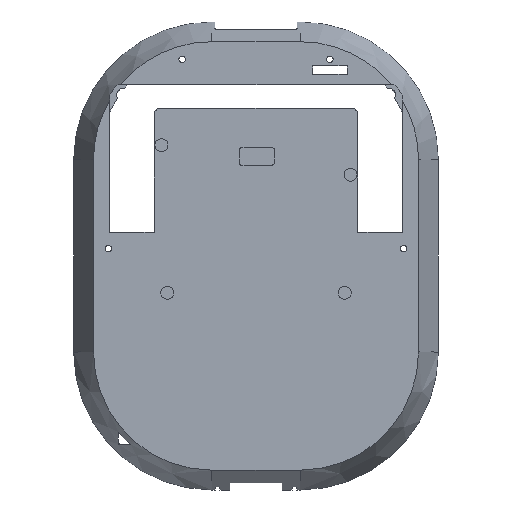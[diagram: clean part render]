
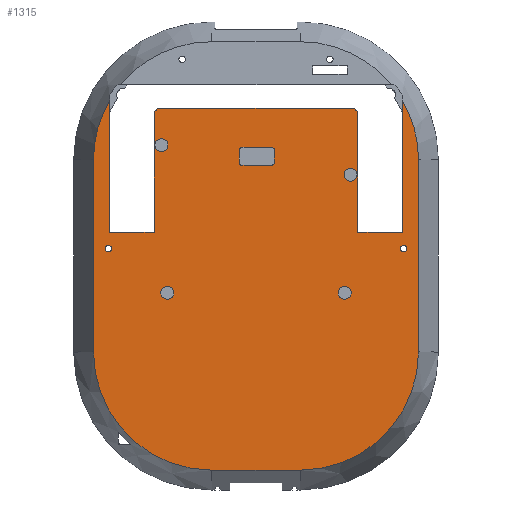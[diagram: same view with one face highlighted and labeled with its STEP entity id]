
A CAD part, top view. The second image highlights one B-rep face of the part: STEP entity #1315.
In plain terms, the highlighted planar face has unit normal (0, 0, 1).
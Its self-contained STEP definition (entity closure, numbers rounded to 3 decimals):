
#138 = VERTEX_POINT('',#139);
#139 = CARTESIAN_POINT('',(-55.,110.,57.5));
#144 = EDGE_CURVE('',#145,#138,#147,.T.);
#145 = VERTEX_POINT('',#146);
#146 = CARTESIAN_POINT('',(-49.5,130.242,57.5));
#147 = CIRCLE('',#148,40.);
#148 = AXIS2_PLACEMENT_3D('',#149,#150,#151);
#149 = CARTESIAN_POINT('',(-15.,110.,57.5));
#150 = DIRECTION('',(0.,-0.,1.));
#151 = DIRECTION('',(0.,1.,0.));
#902 = VERTEX_POINT('',#903);
#903 = CARTESIAN_POINT('',(-15.,5.,57.5));
#999 = VERTEX_POINT('',#1000);
#1000 = CARTESIAN_POINT('',(15.,5.,57.5));
#1005 = EDGE_CURVE('',#902,#999,#1006,.T.);
#1006 = LINE('',#1007,#1008);
#1007 = CARTESIAN_POINT('',(-15.,5.,57.5));
#1008 = VECTOR('',#1009,1.);
#1009 = DIRECTION('',(1.,0.,0.));
#1021 = EDGE_CURVE('',#1022,#902,#1024,.T.);
#1022 = VERTEX_POINT('',#1023);
#1023 = CARTESIAN_POINT('',(-55.,45.,57.5));
#1024 = CIRCLE('',#1025,40.);
#1025 = AXIS2_PLACEMENT_3D('',#1026,#1027,#1028);
#1026 = CARTESIAN_POINT('',(-15.,45.,57.5));
#1027 = DIRECTION('',(0.,0.,1.));
#1028 = DIRECTION('',(-1.,0.,0.));
#1116 = EDGE_CURVE('',#138,#1022,#1117,.T.);
#1117 = LINE('',#1118,#1119);
#1118 = CARTESIAN_POINT('',(-55.,110.,57.5));
#1119 = VECTOR('',#1120,1.);
#1120 = DIRECTION('',(0.,-1.,0.));
#1298 = VERTEX_POINT('',#1299);
#1299 = CARTESIAN_POINT('',(-49.5,85.5,57.5));
#1305 = EDGE_CURVE('',#145,#1298,#1306,.T.);
#1306 = LINE('',#1307,#1308);
#1307 = CARTESIAN_POINT('',(-49.5,106.5,57.5));
#1308 = VECTOR('',#1309,1.);
#1309 = DIRECTION('',(0.,-1.,0.));
#1315 = ADVANCED_FACE('',(#1316,#1413,#1424,#1435,#1446,#1457,#1468,
    #1538),#1549,.T.);
#1316 = FACE_BOUND('',#1317,.T.);
#1317 = EDGE_LOOP('',(#1318,#1319,#1320,#1321,#1322,#1331,#1339,#1348,
    #1356,#1364,#1372,#1381,#1389,#1398,#1406,#1412));
#1318 = ORIENTED_EDGE('',*,*,#144,.T.);
#1319 = ORIENTED_EDGE('',*,*,#1116,.T.);
#1320 = ORIENTED_EDGE('',*,*,#1021,.T.);
#1321 = ORIENTED_EDGE('',*,*,#1005,.T.);
#1322 = ORIENTED_EDGE('',*,*,#1323,.T.);
#1323 = EDGE_CURVE('',#999,#1324,#1326,.T.);
#1324 = VERTEX_POINT('',#1325);
#1325 = CARTESIAN_POINT('',(55.,45.,57.5));
#1326 = CIRCLE('',#1327,40.);
#1327 = AXIS2_PLACEMENT_3D('',#1328,#1329,#1330);
#1328 = CARTESIAN_POINT('',(15.,45.,57.5));
#1329 = DIRECTION('',(0.,0.,1.));
#1330 = DIRECTION('',(0.,-1.,0.));
#1331 = ORIENTED_EDGE('',*,*,#1332,.T.);
#1332 = EDGE_CURVE('',#1324,#1333,#1335,.T.);
#1333 = VERTEX_POINT('',#1334);
#1334 = CARTESIAN_POINT('',(55.,110.,57.5));
#1335 = LINE('',#1336,#1337);
#1336 = CARTESIAN_POINT('',(55.,45.,57.5));
#1337 = VECTOR('',#1338,1.);
#1338 = DIRECTION('',(0.,1.,0.));
#1339 = ORIENTED_EDGE('',*,*,#1340,.T.);
#1340 = EDGE_CURVE('',#1333,#1341,#1343,.T.);
#1341 = VERTEX_POINT('',#1342);
#1342 = CARTESIAN_POINT('',(49.5,130.242,57.5));
#1343 = CIRCLE('',#1344,40.);
#1344 = AXIS2_PLACEMENT_3D('',#1345,#1346,#1347);
#1345 = CARTESIAN_POINT('',(15.,110.,57.5));
#1346 = DIRECTION('',(0.,-0.,1.));
#1347 = DIRECTION('',(1.,0.,0.));
#1348 = ORIENTED_EDGE('',*,*,#1349,.F.);
#1349 = EDGE_CURVE('',#1350,#1341,#1352,.T.);
#1350 = VERTEX_POINT('',#1351);
#1351 = CARTESIAN_POINT('',(49.5,85.5,57.5));
#1352 = LINE('',#1353,#1354);
#1353 = CARTESIAN_POINT('',(49.5,81.5,57.5));
#1354 = VECTOR('',#1355,1.);
#1355 = DIRECTION('',(0.,1.,0.));
#1356 = ORIENTED_EDGE('',*,*,#1357,.F.);
#1357 = EDGE_CURVE('',#1358,#1350,#1360,.T.);
#1358 = VERTEX_POINT('',#1359);
#1359 = CARTESIAN_POINT('',(34.5,85.5,57.5));
#1360 = LINE('',#1361,#1362);
#1361 = CARTESIAN_POINT('',(17.25,85.5,57.5));
#1362 = VECTOR('',#1363,1.);
#1363 = DIRECTION('',(1.,0.,0.));
#1364 = ORIENTED_EDGE('',*,*,#1365,.F.);
#1365 = EDGE_CURVE('',#1366,#1358,#1368,.T.);
#1366 = VERTEX_POINT('',#1367);
#1367 = CARTESIAN_POINT('',(34.5,126.323,57.5));
#1368 = LINE('',#1369,#1370);
#1369 = CARTESIAN_POINT('',(34.5,102.5,57.5));
#1370 = VECTOR('',#1371,1.);
#1371 = DIRECTION('',(0.,-1.,0.));
#1372 = ORIENTED_EDGE('',*,*,#1373,.F.);
#1373 = EDGE_CURVE('',#1374,#1366,#1376,.T.);
#1374 = VERTEX_POINT('',#1375);
#1375 = CARTESIAN_POINT('',(33.323,127.5,57.5));
#1376 = CIRCLE('',#1377,1.75);
#1377 = AXIS2_PLACEMENT_3D('',#1378,#1379,#1380);
#1378 = CARTESIAN_POINT('',(35.,128.,57.5));
#1379 = DIRECTION('',(0.,0.,1.));
#1380 = DIRECTION('',(1.,0.,0.));
#1381 = ORIENTED_EDGE('',*,*,#1382,.F.);
#1382 = EDGE_CURVE('',#1383,#1374,#1385,.T.);
#1383 = VERTEX_POINT('',#1384);
#1384 = CARTESIAN_POINT('',(-33.323,127.5,57.5));
#1385 = LINE('',#1386,#1387);
#1386 = CARTESIAN_POINT('',(-17.25,127.5,57.5));
#1387 = VECTOR('',#1388,1.);
#1388 = DIRECTION('',(1.,0.,0.));
#1389 = ORIENTED_EDGE('',*,*,#1390,.F.);
#1390 = EDGE_CURVE('',#1391,#1383,#1393,.T.);
#1391 = VERTEX_POINT('',#1392);
#1392 = CARTESIAN_POINT('',(-34.5,126.323,57.5));
#1393 = CIRCLE('',#1394,1.75);
#1394 = AXIS2_PLACEMENT_3D('',#1395,#1396,#1397);
#1395 = CARTESIAN_POINT('',(-35.,128.,57.5));
#1396 = DIRECTION('',(0.,0.,1.));
#1397 = DIRECTION('',(1.,0.,0.));
#1398 = ORIENTED_EDGE('',*,*,#1399,.F.);
#1399 = EDGE_CURVE('',#1400,#1391,#1402,.T.);
#1400 = VERTEX_POINT('',#1401);
#1401 = CARTESIAN_POINT('',(-34.5,85.5,57.5));
#1402 = LINE('',#1403,#1404);
#1403 = CARTESIAN_POINT('',(-34.5,81.5,57.5));
#1404 = VECTOR('',#1405,1.);
#1405 = DIRECTION('',(0.,1.,0.));
#1406 = ORIENTED_EDGE('',*,*,#1407,.F.);
#1407 = EDGE_CURVE('',#1298,#1400,#1408,.T.);
#1408 = LINE('',#1409,#1410);
#1409 = CARTESIAN_POINT('',(-24.75,85.5,57.5));
#1410 = VECTOR('',#1411,1.);
#1411 = DIRECTION('',(1.,0.,0.));
#1412 = ORIENTED_EDGE('',*,*,#1305,.F.);
#1413 = FACE_BOUND('',#1414,.T.);
#1414 = EDGE_LOOP('',(#1415));
#1415 = ORIENTED_EDGE('',*,*,#1416,.F.);
#1416 = EDGE_CURVE('',#1417,#1417,#1419,.T.);
#1417 = VERTEX_POINT('',#1418);
#1418 = CARTESIAN_POINT('',(-27.8,65.,57.5));
#1419 = CIRCLE('',#1420,2.2);
#1420 = AXIS2_PLACEMENT_3D('',#1421,#1422,#1423);
#1421 = CARTESIAN_POINT('',(-30.,65.,57.5));
#1422 = DIRECTION('',(0.,0.,1.));
#1423 = DIRECTION('',(1.,0.,0.));
#1424 = FACE_BOUND('',#1425,.T.);
#1425 = EDGE_LOOP('',(#1426));
#1426 = ORIENTED_EDGE('',*,*,#1427,.T.);
#1427 = EDGE_CURVE('',#1428,#1428,#1430,.T.);
#1428 = VERTEX_POINT('',#1429);
#1429 = CARTESIAN_POINT('',(-48.9,80.,57.5));
#1430 = CIRCLE('',#1431,1.1);
#1431 = AXIS2_PLACEMENT_3D('',#1432,#1433,#1434);
#1432 = CARTESIAN_POINT('',(-50.,80.,57.5));
#1433 = DIRECTION('',(0.,0.,-1.));
#1434 = DIRECTION('',(1.,0.,0.));
#1435 = FACE_BOUND('',#1436,.T.);
#1436 = EDGE_LOOP('',(#1437));
#1437 = ORIENTED_EDGE('',*,*,#1438,.F.);
#1438 = EDGE_CURVE('',#1439,#1439,#1441,.T.);
#1439 = VERTEX_POINT('',#1440);
#1440 = CARTESIAN_POINT('',(32.2,65.,57.5));
#1441 = CIRCLE('',#1442,2.2);
#1442 = AXIS2_PLACEMENT_3D('',#1443,#1444,#1445);
#1443 = CARTESIAN_POINT('',(30.,65.,57.5));
#1444 = DIRECTION('',(0.,0.,1.));
#1445 = DIRECTION('',(1.,0.,0.));
#1446 = FACE_BOUND('',#1447,.T.);
#1447 = EDGE_LOOP('',(#1448));
#1448 = ORIENTED_EDGE('',*,*,#1449,.T.);
#1449 = EDGE_CURVE('',#1450,#1450,#1452,.T.);
#1450 = VERTEX_POINT('',#1451);
#1451 = CARTESIAN_POINT('',(51.1,80.,57.5));
#1452 = CIRCLE('',#1453,1.1);
#1453 = AXIS2_PLACEMENT_3D('',#1454,#1455,#1456);
#1454 = CARTESIAN_POINT('',(50.,80.,57.5));
#1455 = DIRECTION('',(0.,0.,-1.));
#1456 = DIRECTION('',(1.,0.,0.));
#1457 = FACE_BOUND('',#1458,.T.);
#1458 = EDGE_LOOP('',(#1459));
#1459 = ORIENTED_EDGE('',*,*,#1460,.F.);
#1460 = EDGE_CURVE('',#1461,#1461,#1463,.T.);
#1461 = VERTEX_POINT('',#1462);
#1462 = CARTESIAN_POINT('',(-29.8,115.,57.5));
#1463 = CIRCLE('',#1464,2.2);
#1464 = AXIS2_PLACEMENT_3D('',#1465,#1466,#1467);
#1465 = CARTESIAN_POINT('',(-32.,115.,57.5));
#1466 = DIRECTION('',(0.,0.,1.));
#1467 = DIRECTION('',(1.,0.,0.));
#1468 = FACE_BOUND('',#1469,.T.);
#1469 = EDGE_LOOP('',(#1470,#1480,#1489,#1497,#1506,#1514,#1523,#1531));
#1470 = ORIENTED_EDGE('',*,*,#1471,.F.);
#1471 = EDGE_CURVE('',#1472,#1474,#1476,.T.);
#1472 = VERTEX_POINT('',#1473);
#1473 = CARTESIAN_POINT('',(-4.75,108.2,57.5));
#1474 = VERTEX_POINT('',#1475);
#1475 = CARTESIAN_POINT('',(5.25,108.2,57.5));
#1476 = LINE('',#1477,#1478);
#1477 = CARTESIAN_POINT('',(-2.375,108.2,57.5));
#1478 = VECTOR('',#1479,1.);
#1479 = DIRECTION('',(1.,0.,0.));
#1480 = ORIENTED_EDGE('',*,*,#1481,.F.);
#1481 = EDGE_CURVE('',#1482,#1472,#1484,.T.);
#1482 = VERTEX_POINT('',#1483);
#1483 = CARTESIAN_POINT('',(-5.75,109.2,57.5));
#1484 = CIRCLE('',#1485,1.);
#1485 = AXIS2_PLACEMENT_3D('',#1486,#1487,#1488);
#1486 = CARTESIAN_POINT('',(-4.75,109.2,57.5));
#1487 = DIRECTION('',(0.,0.,1.));
#1488 = DIRECTION('',(-1.,0.,0.));
#1489 = ORIENTED_EDGE('',*,*,#1490,.F.);
#1490 = EDGE_CURVE('',#1491,#1482,#1493,.T.);
#1491 = VERTEX_POINT('',#1492);
#1492 = CARTESIAN_POINT('',(-5.75,113.2,57.5));
#1493 = LINE('',#1494,#1495);
#1494 = CARTESIAN_POINT('',(-5.75,95.35,57.5));
#1495 = VECTOR('',#1496,1.);
#1496 = DIRECTION('',(0.,-1.,0.));
#1497 = ORIENTED_EDGE('',*,*,#1498,.F.);
#1498 = EDGE_CURVE('',#1499,#1491,#1501,.T.);
#1499 = VERTEX_POINT('',#1500);
#1500 = CARTESIAN_POINT('',(-4.75,114.2,57.5));
#1501 = CIRCLE('',#1502,1.);
#1502 = AXIS2_PLACEMENT_3D('',#1503,#1504,#1505);
#1503 = CARTESIAN_POINT('',(-4.75,113.2,57.5));
#1504 = DIRECTION('',(0.,-0.,1.));
#1505 = DIRECTION('',(0.,1.,0.));
#1506 = ORIENTED_EDGE('',*,*,#1507,.F.);
#1507 = EDGE_CURVE('',#1508,#1499,#1510,.T.);
#1508 = VERTEX_POINT('',#1509);
#1509 = CARTESIAN_POINT('',(5.25,114.2,57.5));
#1510 = LINE('',#1511,#1512);
#1511 = CARTESIAN_POINT('',(2.625,114.2,57.5));
#1512 = VECTOR('',#1513,1.);
#1513 = DIRECTION('',(-1.,0.,0.));
#1514 = ORIENTED_EDGE('',*,*,#1515,.F.);
#1515 = EDGE_CURVE('',#1516,#1508,#1518,.T.);
#1516 = VERTEX_POINT('',#1517);
#1517 = CARTESIAN_POINT('',(6.25,113.2,57.5));
#1518 = CIRCLE('',#1519,1.);
#1519 = AXIS2_PLACEMENT_3D('',#1520,#1521,#1522);
#1520 = CARTESIAN_POINT('',(5.25,113.2,57.5));
#1521 = DIRECTION('',(-0.,0.,1.));
#1522 = DIRECTION('',(1.,0.,0.));
#1523 = ORIENTED_EDGE('',*,*,#1524,.F.);
#1524 = EDGE_CURVE('',#1525,#1516,#1527,.T.);
#1525 = VERTEX_POINT('',#1526);
#1526 = CARTESIAN_POINT('',(6.25,109.2,57.5));
#1527 = LINE('',#1528,#1529);
#1528 = CARTESIAN_POINT('',(6.25,93.35,57.5));
#1529 = VECTOR('',#1530,1.);
#1530 = DIRECTION('',(0.,1.,0.));
#1531 = ORIENTED_EDGE('',*,*,#1532,.F.);
#1532 = EDGE_CURVE('',#1474,#1525,#1533,.T.);
#1533 = CIRCLE('',#1534,1.);
#1534 = AXIS2_PLACEMENT_3D('',#1535,#1536,#1537);
#1535 = CARTESIAN_POINT('',(5.25,109.2,57.5));
#1536 = DIRECTION('',(-0.,0.,1.));
#1537 = DIRECTION('',(0.,-1.,0.));
#1538 = FACE_BOUND('',#1539,.T.);
#1539 = EDGE_LOOP('',(#1540));
#1540 = ORIENTED_EDGE('',*,*,#1541,.F.);
#1541 = EDGE_CURVE('',#1542,#1542,#1544,.T.);
#1542 = VERTEX_POINT('',#1543);
#1543 = CARTESIAN_POINT('',(34.2,105.,57.5));
#1544 = CIRCLE('',#1545,2.2);
#1545 = AXIS2_PLACEMENT_3D('',#1546,#1547,#1548);
#1546 = CARTESIAN_POINT('',(32.,105.,57.5));
#1547 = DIRECTION('',(0.,0.,1.));
#1548 = DIRECTION('',(1.,0.,0.));
#1549 = PLANE('',#1550);
#1550 = AXIS2_PLACEMENT_3D('',#1551,#1552,#1553);
#1551 = CARTESIAN_POINT('',(0.,77.5,57.5));
#1552 = DIRECTION('',(0.,0.,1.));
#1553 = DIRECTION('',(1.,0.,0.));
